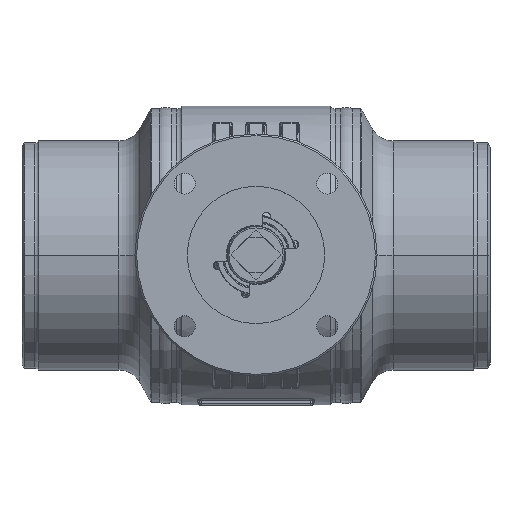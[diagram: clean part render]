
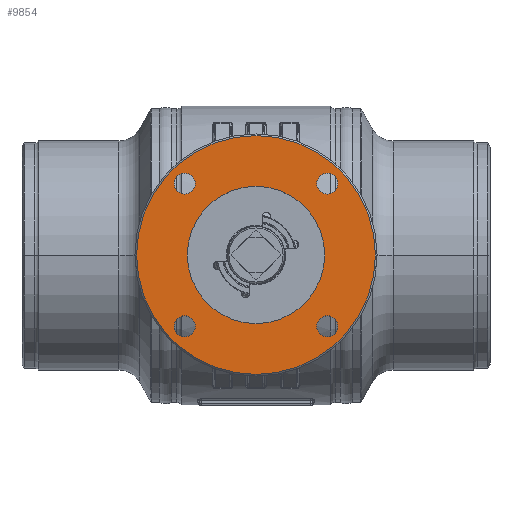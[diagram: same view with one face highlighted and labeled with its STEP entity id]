
A CAD part, top view. The second image highlights one B-rep face of the part: STEP entity #9854.
In plain terms, the highlighted planar face has unit normal (0, 0, 1).
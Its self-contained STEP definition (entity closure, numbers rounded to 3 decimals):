
#1109=CARTESIAN_POINT('',(0.,0.,205.));
#1110=DIRECTION('',(0.,0.,-1.));
#1111=DIRECTION('',(0.,-1.,0.));
#1112=AXIS2_PLACEMENT_3D('',#1109,#1110,#1111);
#1114=CARTESIAN_POINT('',(0.,0.,205.));
#1115=DIRECTION('',(0.,0.,-1.));
#1116=DIRECTION('',(0.,1.,0.));
#1117=AXIS2_PLACEMENT_3D('',#1114,#1115,#1116);
#1119=CARTESIAN_POINT('',(0.,0.,205.));
#1120=DIRECTION('',(0.,0.,-1.));
#1121=DIRECTION('',(0.,1.,0.));
#1122=AXIS2_PLACEMENT_3D('',#1119,#1120,#1121);
#1124=CARTESIAN_POINT('',(0.,0.,205.));
#1125=DIRECTION('',(0.,0.,1.));
#1126=DIRECTION('',(0.,1.,0.));
#1127=AXIS2_PLACEMENT_3D('',#1124,#1125,#1126);
#1129=CARTESIAN_POINT('',(44.194,-44.194,205.));
#1130=DIRECTION('',(0.,0.,-1.));
#1131=DIRECTION('',(0.,1.,0.));
#1132=AXIS2_PLACEMENT_3D('',#1129,#1130,#1131);
#1134=CARTESIAN_POINT('',(44.194,-44.194,205.));
#1135=DIRECTION('',(0.,0.,-1.));
#1136=DIRECTION('',(0.,-1.,0.));
#1137=AXIS2_PLACEMENT_3D('',#1134,#1135,#1136);
#1139=CARTESIAN_POINT('',(-44.194,-44.194,205.));
#1140=DIRECTION('',(0.,0.,-1.));
#1141=DIRECTION('',(0.,1.,0.));
#1142=AXIS2_PLACEMENT_3D('',#1139,#1140,#1141);
#1144=CARTESIAN_POINT('',(-44.194,-44.194,205.));
#1145=DIRECTION('',(0.,0.,-1.));
#1146=DIRECTION('',(0.,-1.,0.));
#1147=AXIS2_PLACEMENT_3D('',#1144,#1145,#1146);
#1149=CARTESIAN_POINT('',(-44.194,44.194,205.));
#1150=DIRECTION('',(0.,0.,-1.));
#1151=DIRECTION('',(0.,1.,0.));
#1152=AXIS2_PLACEMENT_3D('',#1149,#1150,#1151);
#1154=CARTESIAN_POINT('',(-44.194,44.194,205.));
#1155=DIRECTION('',(0.,0.,-1.));
#1156=DIRECTION('',(0.,-1.,0.));
#1157=AXIS2_PLACEMENT_3D('',#1154,#1155,#1156);
#1159=CARTESIAN_POINT('',(44.194,44.194,205.));
#1160=DIRECTION('',(0.,0.,-1.));
#1161=DIRECTION('',(0.,1.,0.));
#1162=AXIS2_PLACEMENT_3D('',#1159,#1160,#1161);
#1164=CARTESIAN_POINT('',(44.194,44.194,205.));
#1165=DIRECTION('',(0.,0.,-1.));
#1166=DIRECTION('',(0.,-1.,0.));
#1167=AXIS2_PLACEMENT_3D('',#1164,#1165,#1166);
#7787=CARTESIAN_POINT('',(0.,42.55,205.));
#7789=VERTEX_POINT('',#7787);
#7791=CARTESIAN_POINT('',(0.,-42.55,205.));
#7793=VERTEX_POINT('',#7791);
#7854=CARTESIAN_POINT('',(44.194,-37.694,205.));
#7855=CARTESIAN_POINT('',(44.194,-50.694,205.));
#7856=VERTEX_POINT('',#7854);
#7857=VERTEX_POINT('',#7855);
#7862=CARTESIAN_POINT('',(-44.194,-37.694,205.));
#7863=CARTESIAN_POINT('',(-44.194,-50.694,205.));
#7864=VERTEX_POINT('',#7862);
#7865=VERTEX_POINT('',#7863);
#7870=CARTESIAN_POINT('',(-44.194,50.694,205.));
#7871=CARTESIAN_POINT('',(-44.194,37.694,205.));
#7872=VERTEX_POINT('',#7870);
#7873=VERTEX_POINT('',#7871);
#7878=CARTESIAN_POINT('',(44.194,50.694,205.));
#7879=CARTESIAN_POINT('',(44.194,37.694,205.));
#7880=VERTEX_POINT('',#7878);
#7881=VERTEX_POINT('',#7879);
#7894=CARTESIAN_POINT('',(0.,-74.,205.));
#7895=CARTESIAN_POINT('',(0.,74.,205.));
#7896=VERTEX_POINT('',#7894);
#7897=VERTEX_POINT('',#7895);
#9815=CARTESIAN_POINT('',(0.,0.,205.));
#9816=DIRECTION('',(0.,0.,-1.));
#9817=DIRECTION('',(0.,1.,0.));
#9818=AXIS2_PLACEMENT_3D('',#9815,#9816,#9817);
#9819=PLANE('',#9818);
#9820=ORIENTED_EDGE('',*,*,#9782,.T.);
#9821=ORIENTED_EDGE('',*,*,#9797,.T.);
#9822=EDGE_LOOP('',(#9820,#9821));
#9823=FACE_OUTER_BOUND('',#9822,.F.);
#9825=ORIENTED_EDGE('',*,*,#9824,.F.);
#9827=ORIENTED_EDGE('',*,*,#9826,.T.);
#9828=EDGE_LOOP('',(#9825,#9827));
#9829=FACE_BOUND('',#9828,.F.);
#9831=ORIENTED_EDGE('',*,*,#9830,.F.);
#9833=ORIENTED_EDGE('',*,*,#9832,.F.);
#9834=EDGE_LOOP('',(#9831,#9833));
#9835=FACE_BOUND('',#9834,.F.);
#9837=ORIENTED_EDGE('',*,*,#9836,.F.);
#9839=ORIENTED_EDGE('',*,*,#9838,.F.);
#9840=EDGE_LOOP('',(#9837,#9839));
#9841=FACE_BOUND('',#9840,.F.);
#9843=ORIENTED_EDGE('',*,*,#9842,.F.);
#9845=ORIENTED_EDGE('',*,*,#9844,.F.);
#9846=EDGE_LOOP('',(#9843,#9845));
#9847=FACE_BOUND('',#9846,.F.);
#9849=ORIENTED_EDGE('',*,*,#9848,.F.);
#9851=ORIENTED_EDGE('',*,*,#9850,.F.);
#9852=EDGE_LOOP('',(#9849,#9851));
#9853=FACE_BOUND('',#9852,.F.);
#9854=ADVANCED_FACE('',(#9823,#9829,#9835,#9841,#9847,#9853),#9819,.F.);
#1113=CIRCLE('',#1112,74.);
#1118=CIRCLE('',#1117,74.);
#1123=CIRCLE('',#1122,42.55);
#1128=CIRCLE('',#1127,42.55);
#1133=CIRCLE('',#1132,6.5);
#1138=CIRCLE('',#1137,6.5);
#1143=CIRCLE('',#1142,6.5);
#1148=CIRCLE('',#1147,6.5);
#1153=CIRCLE('',#1152,6.5);
#1158=CIRCLE('',#1157,6.5);
#1163=CIRCLE('',#1162,6.5);
#1168=CIRCLE('',#1167,6.5);
#9782=EDGE_CURVE('',#7896,#7897,#1113,.T.);
#9797=EDGE_CURVE('',#7897,#7896,#1118,.T.);
#9824=EDGE_CURVE('',#7789,#7793,#1123,.T.);
#9826=EDGE_CURVE('',#7789,#7793,#1128,.T.);
#9830=EDGE_CURVE('',#7856,#7857,#1133,.T.);
#9832=EDGE_CURVE('',#7857,#7856,#1138,.T.);
#9836=EDGE_CURVE('',#7864,#7865,#1143,.T.);
#9838=EDGE_CURVE('',#7865,#7864,#1148,.T.);
#9842=EDGE_CURVE('',#7872,#7873,#1153,.T.);
#9844=EDGE_CURVE('',#7873,#7872,#1158,.T.);
#9848=EDGE_CURVE('',#7880,#7881,#1163,.T.);
#9850=EDGE_CURVE('',#7881,#7880,#1168,.T.);
